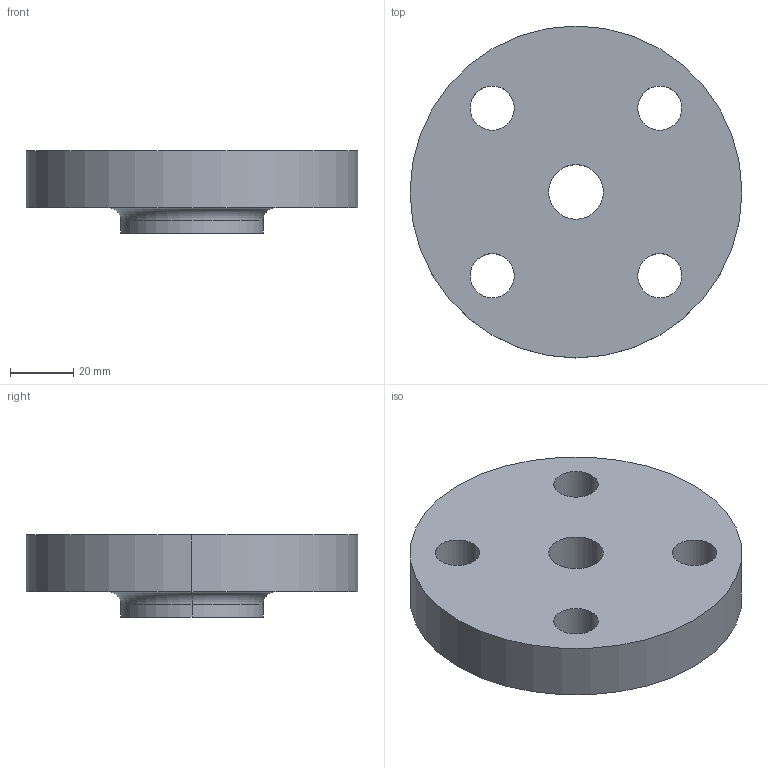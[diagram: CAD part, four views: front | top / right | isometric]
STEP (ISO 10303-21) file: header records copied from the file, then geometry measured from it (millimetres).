
FILE_DESCRIPTION (( 'STEP AP214' ), '1' );
FILE_NAME ('PN40 DN20 Type 13 - Type A Face.STEP', '2018-12-30T04:11:06', ( '' ), ( '' ), 'SwSTEP 2.0', 'SolidWorks 2019', '' );
FILE_SCHEMA (( 'AUTOMOTIVE_DESIGN' ));
Length unit declared in the file: millimetre
Products named in the file (1): PN40 DN20 Type 13 - Type A Face
Bounding box: 105 x 105 x 26 mm (x, y, z)
Volume: 151899.5 mm3; surface area: 27029 mm2
Topology: 1 solids, 1 shells, 19 faces, 46 edges, 30 vertices
Faces by surface type: cylinder 14, plane 3, torus 2
Entity records: 630 total; most frequent: DIRECTION 118, CARTESIAN_POINT 96, ORIENTED_EDGE 92, AXIS2_PLACEMENT_3D 52, EDGE_CURVE 46, CIRCLE 32, EDGE_LOOP 30, VERTEX_POINT 30
